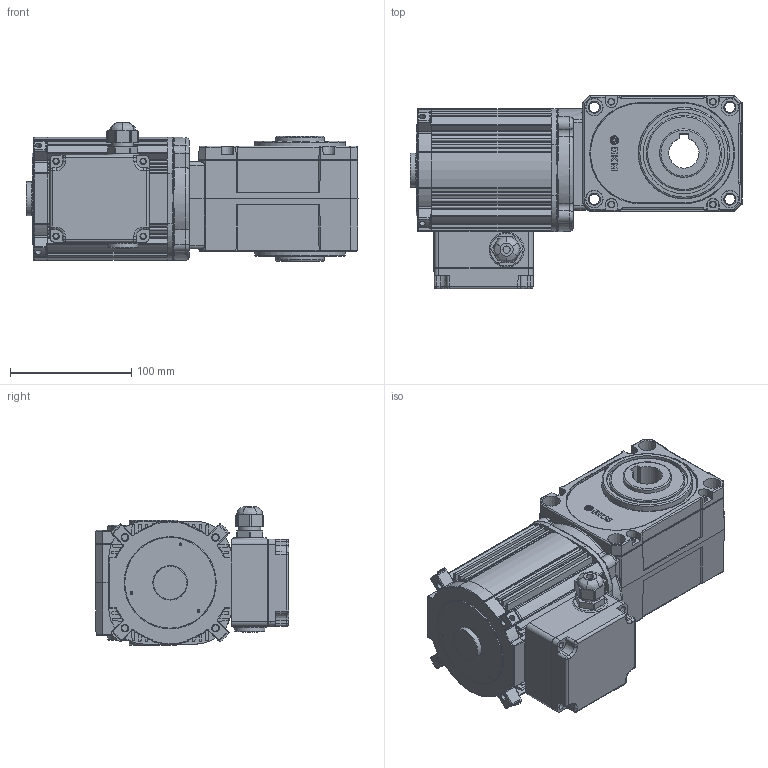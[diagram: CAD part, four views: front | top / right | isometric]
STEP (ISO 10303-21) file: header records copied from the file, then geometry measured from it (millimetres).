
FILE_DESCRIPTION (( 'STEP AP203' ), '1' );
FILE_NAME ('DSY25B-(40~60)N010-¤±.STEP', '2022-08-08T06:42:40', ( '' ), ( '' ), 'SwSTEP 2.0', 'SolidWorks 2018', '' );
FILE_SCHEMA (( 'CONFIG_CONTROL_DESIGN' ));
Length unit declared in the file: millimetre
Products named in the file (14): COVER-DSY02L-DC; 欽濠夢蝶 ж 熱薑; DKM 0.2kW 菴醴幗 陛奢紫(20200128); 欽濠夢蝶 葆偃; 堅鼠ぬ韁-ж; DKM 窜磊措 惑何荐沥档(20200120); 0.1KW 賅攪; DSY25B-(40~60)N010-仃; DSY02L 馬樓晦; 堅鼠ぬ韁-鼻; CASE-DSY02L-DC; 95 牢惯橇饭烙 弥辆啊傍档(20200128); Щ滓衛綰_ル遽; 欽濠夢蝶 ASS''Y
Assembly tree (13 placements, depth 3):
  DSY25B-(40~60)N010-仃
    0.1KW 賅攪
      95 牢惯橇饭烙 弥辆啊傍档(20200128)
      DKM 0.2kW 菴醴幗 陛奢紫(20200128)
    欽濠夢蝶 ASS''Y
      欽濠夢蝶 ж 熱薑
      Щ滓衛綰_ル遽
      欽濠夢蝶 葆偃
      堅鼠ぬ韁-鼻
      堅鼠ぬ韁-ж
      DKM 窜磊措 惑何荐沥档(20200120)
    DSY02L 馬樓晦
      CASE-DSY02L-DC
      COVER-DSY02L-DC
Bounding box: 274.3 x 160.05 x 114.16 mm (x, y, z)
Volume: 2410712.3 mm3; surface area: 299639.4 mm2
Topology: 10 solids, 11 shells, 1287 faces, 3279 edges, 2051 vertices
Faces by surface type: plane 536, cylinder 467, bspline 178, torus 71, cone 31, sphere 4
Full cylindrical faces by diameter (mm): 2.514 x2, 3.318 x2, 3.5 x4, 4.2 x8, 4.5 x4, 5 x12, 5.3 x12, 6 x1, 8.5 x4, 10 x8, 10.8 x1, 14 x4, 16.5 x1, 18 x2, 19 x1, 20 x2, 22 x1, 25 x1, 28 x1, 40 x3, 62 x2, 67 x2
Entity records: 44488 total; most frequent: CARTESIAN_POINT 13256, ORIENTED_EDGE 6192, DIRECTION 6014, EDGE_CURVE 3096, AXIS2_PLACEMENT_3D 2168, VERTEX_POINT 2022, LINE 1678, VECTOR 1678
